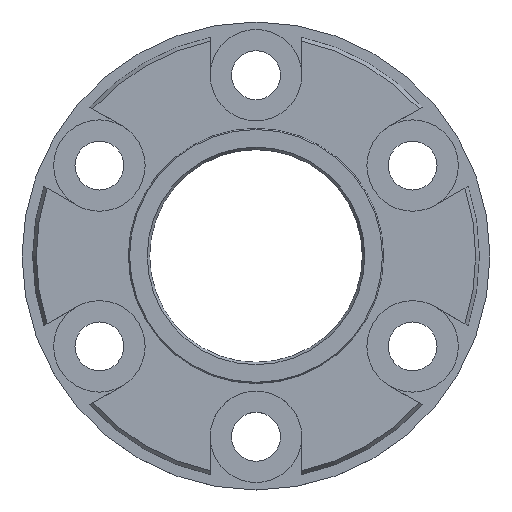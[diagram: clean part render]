
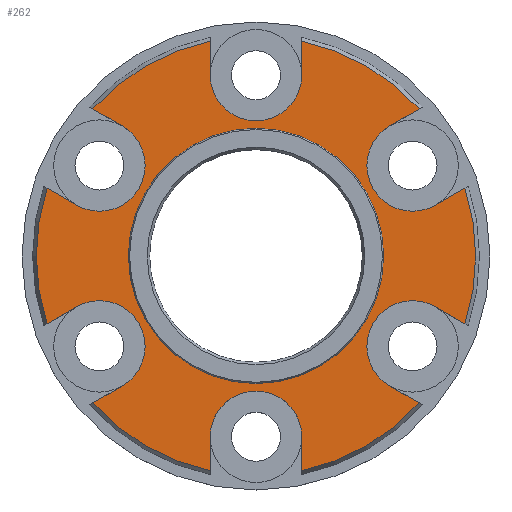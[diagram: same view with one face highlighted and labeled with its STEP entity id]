
A CAD part, top view. The second image highlights one B-rep face of the part: STEP entity #262.
In plain terms, the highlighted planar face has unit normal (0, 0, 1).
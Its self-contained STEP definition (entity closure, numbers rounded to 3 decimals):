
#36=PLANE('',#1004);
#81=FACE_BOUND('',#364,.T.);
#82=FACE_BOUND('',#365,.T.);
#181=LINE('',#1553,#229);
#182=LINE('',#1554,#230);
#183=LINE('',#1555,#231);
#184=LINE('',#1556,#232);
#185=LINE('',#1557,#233);
#186=LINE('',#1558,#234);
#187=LINE('',#1559,#235);
#188=LINE('',#1560,#236);
#189=LINE('',#1561,#237);
#190=LINE('',#1562,#238);
#191=LINE('',#1563,#239);
#192=LINE('',#1564,#240);
#229=VECTOR('',#1221,1.);
#230=VECTOR('',#1222,1.);
#231=VECTOR('',#1223,1.);
#232=VECTOR('',#1224,1.);
#233=VECTOR('',#1225,1.);
#234=VECTOR('',#1226,1.);
#235=VECTOR('',#1227,1.);
#236=VECTOR('',#1228,1.);
#237=VECTOR('',#1229,1.);
#238=VECTOR('',#1230,1.);
#239=VECTOR('',#1231,1.);
#240=VECTOR('',#1232,1.);
#262=ADVANCED_FACE('',(#81,#82),#36,.T.);
#364=EDGE_LOOP('',(#543,#544,#545,#546,#547,#548,#549,#550,#551,#552,#553,
#554,#555,#556,#557,#558,#559,#560,#561,#562,#563,#564,#565,#566));
#365=EDGE_LOOP('',(#567));
#543=ORIENTED_EDGE('',*,*,#851,.F.);
#544=ORIENTED_EDGE('',*,*,#774,.T.);
#545=ORIENTED_EDGE('',*,*,#852,.F.);
#546=ORIENTED_EDGE('',*,*,#768,.T.);
#547=ORIENTED_EDGE('',*,*,#853,.F.);
#548=ORIENTED_EDGE('',*,*,#827,.F.);
#549=ORIENTED_EDGE('',*,*,#854,.F.);
#550=ORIENTED_EDGE('',*,*,#814,.T.);
#551=ORIENTED_EDGE('',*,*,#855,.F.);
#552=ORIENTED_EDGE('',*,*,#822,.F.);
#553=ORIENTED_EDGE('',*,*,#856,.F.);
#554=ORIENTED_EDGE('',*,*,#802,.T.);
#555=ORIENTED_EDGE('',*,*,#857,.F.);
#556=ORIENTED_EDGE('',*,*,#810,.F.);
#557=ORIENTED_EDGE('',*,*,#858,.F.);
#558=ORIENTED_EDGE('',*,*,#790,.T.);
#559=ORIENTED_EDGE('',*,*,#859,.F.);
#560=ORIENTED_EDGE('',*,*,#798,.T.);
#561=ORIENTED_EDGE('',*,*,#860,.F.);
#562=ORIENTED_EDGE('',*,*,#778,.T.);
#563=ORIENTED_EDGE('',*,*,#861,.F.);
#564=ORIENTED_EDGE('',*,*,#786,.T.);
#565=ORIENTED_EDGE('',*,*,#862,.F.);
#566=ORIENTED_EDGE('',*,*,#759,.T.);
#567=ORIENTED_EDGE('',*,*,#863,.T.);
#670=VERTEX_POINT('',#1333);
#671=VERTEX_POINT('',#1335);
#678=VERTEX_POINT('',#1357);
#679=VERTEX_POINT('',#1358);
#683=VERTEX_POINT('',#1374);
#684=VERTEX_POINT('',#1376);
#687=VERTEX_POINT('',#1386);
#688=VERTEX_POINT('',#1388);
#694=VERTEX_POINT('',#1406);
#695=VERTEX_POINT('',#1408);
#698=VERTEX_POINT('',#1418);
#699=VERTEX_POINT('',#1420);
#705=VERTEX_POINT('',#1438);
#706=VERTEX_POINT('',#1440);
#709=VERTEX_POINT('',#1450);
#710=VERTEX_POINT('',#1452);
#716=VERTEX_POINT('',#1470);
#717=VERTEX_POINT('',#1472);
#720=VERTEX_POINT('',#1482);
#721=VERTEX_POINT('',#1484);
#727=VERTEX_POINT('',#1502);
#728=VERTEX_POINT('',#1504);
#732=VERTEX_POINT('',#1513);
#733=VERTEX_POINT('',#1515);
#744=VERTEX_POINT('',#1566);
#759=EDGE_CURVE('',#671,#670,#877,.T.);
#768=EDGE_CURVE('',#678,#679,#881,.T.);
#774=EDGE_CURVE('',#684,#683,#884,.T.);
#778=EDGE_CURVE('',#688,#687,#886,.T.);
#786=EDGE_CURVE('',#695,#694,#890,.T.);
#790=EDGE_CURVE('',#699,#698,#892,.T.);
#798=EDGE_CURVE('',#706,#705,#896,.T.);
#802=EDGE_CURVE('',#710,#709,#898,.T.);
#810=EDGE_CURVE('',#716,#717,#902,.T.);
#814=EDGE_CURVE('',#721,#720,#904,.T.);
#822=EDGE_CURVE('',#727,#728,#908,.T.);
#827=EDGE_CURVE('',#732,#733,#911,.T.);
#851=EDGE_CURVE('',#684,#670,#181,.T.);
#852=EDGE_CURVE('',#678,#683,#182,.T.);
#853=EDGE_CURVE('',#733,#679,#183,.T.);
#854=EDGE_CURVE('',#721,#732,#184,.T.);
#855=EDGE_CURVE('',#728,#720,#185,.T.);
#856=EDGE_CURVE('',#710,#727,#186,.T.);
#857=EDGE_CURVE('',#717,#709,#187,.T.);
#858=EDGE_CURVE('',#699,#716,#188,.T.);
#859=EDGE_CURVE('',#706,#698,#189,.T.);
#860=EDGE_CURVE('',#688,#705,#190,.T.);
#861=EDGE_CURVE('',#695,#687,#191,.T.);
#862=EDGE_CURVE('',#671,#694,#192,.T.);
#863=EDGE_CURVE('',#744,#744,#922,.T.);
#877=CIRCLE('',#937,10.327);
#881=CIRCLE('',#944,10.327);
#884=CIRCLE('',#948,2.15);
#886=CIRCLE('',#951,10.327);
#890=CIRCLE('',#957,2.15);
#892=CIRCLE('',#960,10.327);
#896=CIRCLE('',#966,2.15);
#898=CIRCLE('',#969,10.327);
#902=CIRCLE('',#975,2.15);
#904=CIRCLE('',#978,10.327);
#908=CIRCLE('',#984,2.15);
#911=CIRCLE('',#988,2.15);
#922=CIRCLE('',#1003,6.);
#937=AXIS2_PLACEMENT_3D('',#1334,#1053,#1054);
#944=AXIS2_PLACEMENT_3D('',#1356,#1071,#1072);
#948=AXIS2_PLACEMENT_3D('',#1375,#1080,#1081);
#951=AXIS2_PLACEMENT_3D('',#1387,#1087,#1088);
#957=AXIS2_PLACEMENT_3D('',#1407,#1102,#1103);
#960=AXIS2_PLACEMENT_3D('',#1419,#1109,#1110);
#966=AXIS2_PLACEMENT_3D('',#1439,#1124,#1125);
#969=AXIS2_PLACEMENT_3D('',#1451,#1131,#1132);
#975=AXIS2_PLACEMENT_3D('',#1471,#1146,#1147);
#978=AXIS2_PLACEMENT_3D('',#1483,#1153,#1154);
#984=AXIS2_PLACEMENT_3D('',#1503,#1168,#1169);
#988=AXIS2_PLACEMENT_3D('',#1514,#1178,#1179);
#1003=AXIS2_PLACEMENT_3D('',#1565,#1233,#1234);
#1004=AXIS2_PLACEMENT_3D('',#1567,#1235,#1236);
#1053=DIRECTION('',(0.,0.,1.));
#1054=DIRECTION('',(1.,0.,0.));
#1071=DIRECTION('',(0.,0.,1.));
#1072=DIRECTION('',(1.,0.,0.));
#1080=DIRECTION('',(0.,0.,-1.));
#1081=DIRECTION('',(-0.866,-0.5,0.));
#1087=DIRECTION('',(0.,0.,1.));
#1088=DIRECTION('',(1.,0.,0.));
#1102=DIRECTION('',(0.,0.,-1.));
#1103=DIRECTION('',(-0.866,0.5,0.));
#1109=DIRECTION('',(0.,0.,1.));
#1110=DIRECTION('',(1.,0.,0.));
#1124=DIRECTION('',(0.,0.,-1.));
#1125=DIRECTION('',(0.,1.,0.));
#1131=DIRECTION('',(0.,0.,1.));
#1132=DIRECTION('',(1.,0.,0.));
#1146=DIRECTION('',(0.,0.,1.));
#1147=DIRECTION('',(0.866,0.5,0.));
#1153=DIRECTION('',(0.,0.,1.));
#1154=DIRECTION('',(1.,0.,0.));
#1168=DIRECTION('',(0.,0.,1.));
#1169=DIRECTION('',(0.866,-0.5,0.));
#1178=DIRECTION('',(0.,0.,1.));
#1179=DIRECTION('',(0.,-1.,0.));
#1221=DIRECTION('',(0.866,0.5,0.));
#1222=DIRECTION('',(-0.866,-0.5,0.));
#1223=DIRECTION('',(0.,1.,0.));
#1224=DIRECTION('',(0.,-1.,0.));
#1225=DIRECTION('',(-0.866,0.5,0.));
#1226=DIRECTION('',(0.866,-0.5,0.));
#1227=DIRECTION('',(-0.866,-0.5,0.));
#1228=DIRECTION('',(0.866,0.5,0.));
#1229=DIRECTION('',(0.,-1.,0.));
#1230=DIRECTION('',(0.,1.,0.));
#1231=DIRECTION('',(0.866,-0.5,0.));
#1232=DIRECTION('',(-0.866,0.5,0.));
#1233=DIRECTION('',(0.,0.,-1.));
#1234=DIRECTION('',(1.,0.,0.));
#1235=DIRECTION('',(0.,0.,1.));
#1236=DIRECTION('',(1.,0.,0.));
#1333=CARTESIAN_POINT('',(9.822,3.188,2.8));
#1334=CARTESIAN_POINT('',(0.,0.,2.8));
#1335=CARTESIAN_POINT('',(9.822,-3.188,2.8));
#1356=CARTESIAN_POINT('',(0.,0.,2.8));
#1357=CARTESIAN_POINT('',(7.672,6.912,2.8));
#1358=CARTESIAN_POINT('',(2.15,10.101,2.8));
#1374=CARTESIAN_POINT('',(6.286,6.112,2.8));
#1375=CARTESIAN_POINT('',(7.361,4.25,2.8));
#1376=CARTESIAN_POINT('',(8.436,2.388,2.8));
#1386=CARTESIAN_POINT('',(7.672,-6.912,2.8));
#1387=CARTESIAN_POINT('',(0.,0.,2.8));
#1388=CARTESIAN_POINT('',(2.15,-10.101,2.8));
#1406=CARTESIAN_POINT('',(8.436,-2.388,2.8));
#1407=CARTESIAN_POINT('',(7.361,-4.25,2.8));
#1408=CARTESIAN_POINT('',(6.286,-6.112,2.8));
#1418=CARTESIAN_POINT('',(-2.15,-10.101,2.8));
#1419=CARTESIAN_POINT('',(0.,0.,2.8));
#1420=CARTESIAN_POINT('',(-7.672,-6.912,2.8));
#1438=CARTESIAN_POINT('',(2.15,-8.5,2.8));
#1439=CARTESIAN_POINT('',(0.,-8.5,2.8));
#1440=CARTESIAN_POINT('',(-2.15,-8.5,2.8));
#1450=CARTESIAN_POINT('',(-9.822,-3.188,2.8));
#1451=CARTESIAN_POINT('',(0.,0.,2.8));
#1452=CARTESIAN_POINT('',(-9.822,3.188,2.8));
#1470=CARTESIAN_POINT('',(-6.286,-6.112,2.8));
#1471=CARTESIAN_POINT('',(-7.361,-4.25,2.8));
#1472=CARTESIAN_POINT('',(-8.436,-2.388,2.8));
#1482=CARTESIAN_POINT('',(-7.672,6.912,2.8));
#1483=CARTESIAN_POINT('',(0.,0.,2.8));
#1484=CARTESIAN_POINT('',(-2.15,10.101,2.8));
#1502=CARTESIAN_POINT('',(-8.436,2.388,2.8));
#1503=CARTESIAN_POINT('',(-7.361,4.25,2.8));
#1504=CARTESIAN_POINT('',(-6.286,6.112,2.8));
#1513=CARTESIAN_POINT('',(-2.15,8.5,2.8));
#1514=CARTESIAN_POINT('',(0.,8.5,2.8));
#1515=CARTESIAN_POINT('',(2.15,8.5,2.8));
#1553=CARTESIAN_POINT('',(8.436,2.388,2.8));
#1554=CARTESIAN_POINT('',(10.616,8.612,2.8));
#1555=CARTESIAN_POINT('',(2.15,8.5,2.8));
#1556=CARTESIAN_POINT('',(-2.15,13.5,2.8));
#1557=CARTESIAN_POINT('',(-6.286,6.112,2.8));
#1558=CARTESIAN_POINT('',(-12.766,4.888,2.8));
#1559=CARTESIAN_POINT('',(-8.436,-2.388,2.8));
#1560=CARTESIAN_POINT('',(-10.616,-8.612,2.8));
#1561=CARTESIAN_POINT('',(-2.15,-8.5,2.8));
#1562=CARTESIAN_POINT('',(2.15,-13.5,2.8));
#1563=CARTESIAN_POINT('',(6.286,-6.112,2.8));
#1564=CARTESIAN_POINT('',(12.766,-4.888,2.8));
#1565=CARTESIAN_POINT('',(0.,0.,2.8));
#1566=CARTESIAN_POINT('',(6.,0.,2.8));
#1567=CARTESIAN_POINT('',(0.,0.,2.8));
